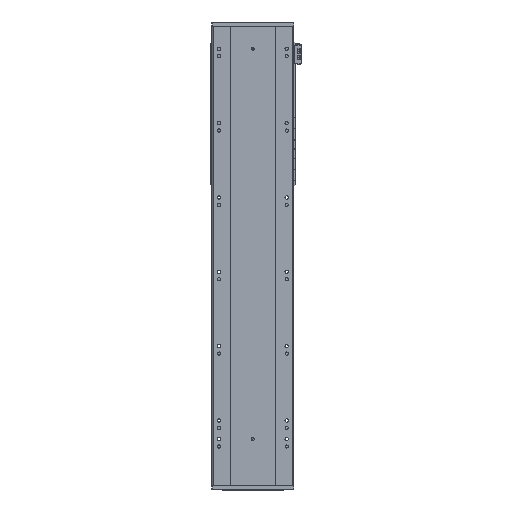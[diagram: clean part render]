
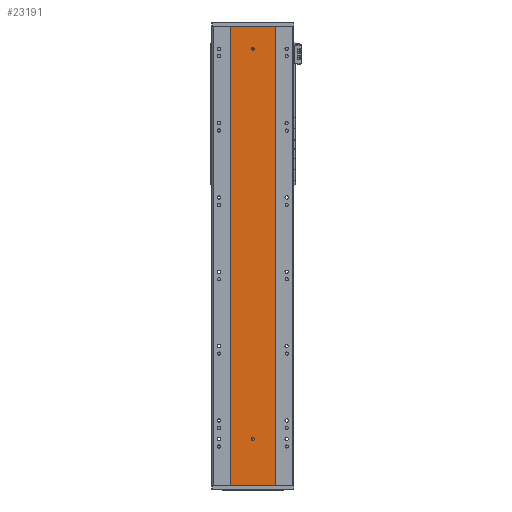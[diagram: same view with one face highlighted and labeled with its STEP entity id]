
A CAD part, front view. The second image highlights one B-rep face of the part: STEP entity #23191.
In plain terms, the highlighted planar face has unit normal (0, -1, 0).
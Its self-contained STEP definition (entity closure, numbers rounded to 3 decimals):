
#831 = CARTESIAN_POINT ( 'NONE',  ( -60., 0., 1235. ) ) ;
#1396 = CIRCLE ( 'NONE', #29796, 4. ) ;
#4045 = CARTESIAN_POINT ( 'NONE',  ( 0., 0., 1175. ) ) ;
#4242 = DIRECTION ( 'NONE',  ( 0., -1., 0. ) ) ;
#4279 = ORIENTED_EDGE ( 'NONE', *, *, #20598, .F. ) ;
#4283 = FACE_OUTER_BOUND ( 'NONE', #37415, .T. ) ;
#4914 = AXIS2_PLACEMENT_3D ( 'NONE', #20631, #15502, #5896 ) ;
#5896 = DIRECTION ( 'NONE',  ( 0., 0., -1. ) ) ;
#7052 = CIRCLE ( 'NONE', #45579, 4. ) ;
#7587 = DIRECTION ( 'NONE',  ( 0., -1., 0. ) ) ;
#7709 = VERTEX_POINT ( 'NONE', #22370 ) ;
#10073 = VERTEX_POINT ( 'NONE', #43604 ) ;
#11127 = EDGE_CURVE ( 'NONE', #30824, #7709, #1396, .T. ) ;
#11461 = AXIS2_PLACEMENT_3D ( 'NONE', #21197, #53808, #58321 ) ;
#12790 = VERTEX_POINT ( 'NONE', #21162 ) ;
#14540 = ORIENTED_EDGE ( 'NONE', *, *, #31887, .F. ) ;
#15502 = DIRECTION ( 'NONE',  ( 0., -1., 0. ) ) ;
#16222 = CARTESIAN_POINT ( 'NONE',  ( -60., 0., 1235. ) ) ;
#17587 = CARTESIAN_POINT ( 'NONE',  ( 60., 0., 1235. ) ) ;
#18439 = CARTESIAN_POINT ( 'NONE',  ( -60., 0., 0. ) ) ;
#20598 = EDGE_CURVE ( 'NONE', #37829, #25641, #26659, .T. ) ;
#20617 = LINE ( 'NONE', #48635, #43217 ) ;
#20631 = CARTESIAN_POINT ( 'NONE',  ( 0., 0., 1175. ) ) ;
#21162 = CARTESIAN_POINT ( 'NONE',  ( 60., 0., 1235. ) ) ;
#21197 = CARTESIAN_POINT ( 'NONE',  ( 0., 0., 125. ) ) ;
#22370 = CARTESIAN_POINT ( 'NONE',  ( 0., 0., 1171. ) ) ;
#22594 = CARTESIAN_POINT ( 'NONE',  ( 0., 0., 121. ) ) ;
#22695 = EDGE_LOOP ( 'NONE', ( #40224, #27240 ) ) ;
#22945 = DIRECTION ( 'NONE',  ( 1., 0., 0. ) ) ;
#23062 = LINE ( 'NONE', #17587, #44875 ) ;
#23191 = ADVANCED_FACE ( 'NONE', ( #29138, #58332, #4283 ), #38176, .F. ) ;
#24778 = EDGE_CURVE ( 'NONE', #25641, #37829, #7052, .T. ) ;
#25641 = VERTEX_POINT ( 'NONE', #56653 ) ;
#26659 = CIRCLE ( 'NONE', #11461, 4. ) ;
#27240 = ORIENTED_EDGE ( 'NONE', *, *, #11127, .F. ) ;
#28613 = VECTOR ( 'NONE', #43933, 1000. ) ;
#29138 = FACE_BOUND ( 'NONE', #22695, .T. ) ;
#29796 = AXIS2_PLACEMENT_3D ( 'NONE', #4045, #4242, #32209 ) ;
#30307 = DIRECTION ( 'NONE',  ( 0., 0., -1. ) ) ;
#30688 = AXIS2_PLACEMENT_3D ( 'NONE', #831, #42853, #57164 ) ;
#30824 = VERTEX_POINT ( 'NONE', #59108 ) ;
#31460 = DIRECTION ( 'NONE',  ( 0., 0., -1. ) ) ;
#31887 = EDGE_CURVE ( 'NONE', #52314, #12790, #32315, .T. ) ;
#31940 = EDGE_CURVE ( 'NONE', #52314, #44897, #20617, .T. ) ;
#32209 = DIRECTION ( 'NONE',  ( 0., 0., -1. ) ) ;
#32315 = LINE ( 'NONE', #16222, #28613 ) ;
#34952 = LINE ( 'NONE', #18439, #35668 ) ;
#35668 = VECTOR ( 'NONE', #22945, 1000. ) ;
#37415 = EDGE_LOOP ( 'NONE', ( #42937, #51246, #14540, #55483 ) ) ;
#37829 = VERTEX_POINT ( 'NONE', #22594 ) ;
#38176 = PLANE ( 'NONE',  #30688 ) ;
#39017 = CARTESIAN_POINT ( 'NONE',  ( -60., 0., 1235. ) ) ;
#40224 = ORIENTED_EDGE ( 'NONE', *, *, #52854, .F. ) ;
#42853 = DIRECTION ( 'NONE',  ( 0., 1., 0. ) ) ;
#42937 = ORIENTED_EDGE ( 'NONE', *, *, #54052, .T. ) ;
#43217 = VECTOR ( 'NONE', #30307, 1000. ) ;
#43604 = CARTESIAN_POINT ( 'NONE',  ( 60., 0., 0. ) ) ;
#43933 = DIRECTION ( 'NONE',  ( 1., 0., 0. ) ) ;
#44875 = VECTOR ( 'NONE', #50826, 1000. ) ;
#44897 = VERTEX_POINT ( 'NONE', #59043 ) ;
#45579 = AXIS2_PLACEMENT_3D ( 'NONE', #50010, #7587, #31460 ) ;
#47458 = CIRCLE ( 'NONE', #4914, 4. ) ;
#48635 = CARTESIAN_POINT ( 'NONE',  ( -60., 0., 1235. ) ) ;
#49155 = EDGE_CURVE ( 'NONE', #12790, #10073, #23062, .T. ) ;
#49646 = EDGE_LOOP ( 'NONE', ( #4279, #54115 ) ) ;
#50010 = CARTESIAN_POINT ( 'NONE',  ( 0., 0., 125. ) ) ;
#50826 = DIRECTION ( 'NONE',  ( 0., 0., -1. ) ) ;
#51246 = ORIENTED_EDGE ( 'NONE', *, *, #49155, .F. ) ;
#52314 = VERTEX_POINT ( 'NONE', #39017 ) ;
#52854 = EDGE_CURVE ( 'NONE', #7709, #30824, #47458, .T. ) ;
#53808 = DIRECTION ( 'NONE',  ( 0., -1., 0. ) ) ;
#54052 = EDGE_CURVE ( 'NONE', #44897, #10073, #34952, .T. ) ;
#54115 = ORIENTED_EDGE ( 'NONE', *, *, #24778, .F. ) ;
#55483 = ORIENTED_EDGE ( 'NONE', *, *, #31940, .T. ) ;
#56653 = CARTESIAN_POINT ( 'NONE',  ( 0., 0., 129. ) ) ;
#57164 = DIRECTION ( 'NONE',  ( 0., 0., 1. ) ) ;
#58321 = DIRECTION ( 'NONE',  ( 0., 0., -1. ) ) ;
#58332 = FACE_BOUND ( 'NONE', #49646, .T. ) ;
#59043 = CARTESIAN_POINT ( 'NONE',  ( -60., 0., 0. ) ) ;
#59108 = CARTESIAN_POINT ( 'NONE',  ( 0., 0., 1179. ) ) ;
